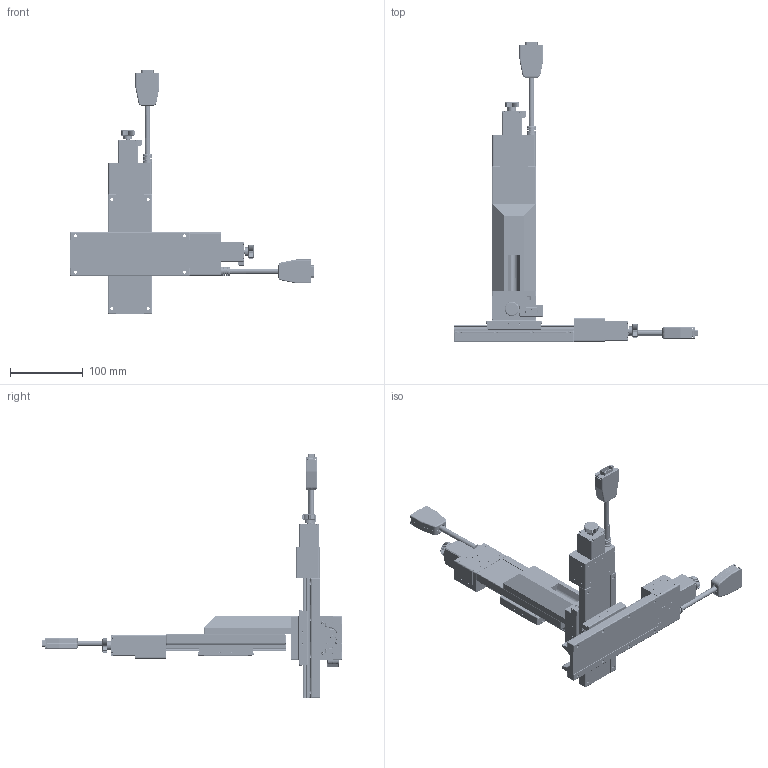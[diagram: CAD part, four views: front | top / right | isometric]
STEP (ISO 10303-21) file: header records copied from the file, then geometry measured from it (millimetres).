
FILE_DESCRIPTION (( 'STEP AP203' ), '1' );
FILE_NAME ('CXYZN6075-S2?N.STEP', '2023-10-02T07:02:46', ( '' ), ( '' ), 'SwSTEP 2.0', 'SolidWorks 2019', '' );
FILE_SCHEMA (( 'CONFIG_CONTROL_DESIGN' ));
Products named in the file (12): CZLN6075-S2_N.STEP.STEP; CXN6075-S2_N.STEP.STEP; CXZN6075-S2?N.STEP; Group1^CXN6075-S2_N(2023_s__)_defeature_GMT.STEP_GMT; CXN6075-S2?N.STEP; Group2^CZLN6075-S2_N_GMT.STEP_GMT.STEP_GMT; Group2^CXN6075-S2_N(2023_s__)_defeature_GMT.STEP_GMT.STEP_GMT; CXN60-2_GMT.STEP_GMT.STEP_GMT; Group1^CXN6075-S2_N(2023_s__)_defeature_GMT.STEP_GMT.STEP_GMT; CXYZN6075-S2?N; Group2^CXN6075-S2_N(2023_s__)_defeature_GMT.STEP_GMT; Group1^CZLN6075-S2_N_GMT.STEP_GMT.STEP_GMT
Assembly tree (11 placements, depth 4):
  CXYZN6075-S2?N
    CXZN6075-S2?N.STEP
      CXN6075-S2_N.STEP.STEP
        Group1^CXN6075-S2_N(2023_s__)_defeature_GMT.STEP_GMT.STEP_GMT
        Group2^CXN6075-S2_N(2023_s__)_defeature_GMT.STEP_GMT.STEP_GMT
      CZLN6075-S2_N.STEP.STEP
        Group1^CZLN6075-S2_N_GMT.STEP_GMT.STEP_GMT
        Group2^CZLN6075-S2_N_GMT.STEP_GMT.STEP_GMT
        CXN60-2_GMT.STEP_GMT.STEP_GMT
    CXN6075-S2?N.STEP
      Group1^CXN6075-S2_N(2023_s__)_defeature_GMT.STEP_GMT
      Group2^CXN6075-S2_N(2023_s__)_defeature_GMT.STEP_GMT
Bounding box: 335.6 x 413.1 x 335.6 mm (x, y, z)
Volume: 117713.7 mm3; surface area: 345879.4 mm2
Topology: 30 solids, 86 shells, 12613 faces, 33330 edges, 20836 vertices
Faces by surface type: plane 5041, cylinder 3719, cone 1396, torus 1246, bspline 809, sphere 402
Entity records: 474328 total; most frequent: CARTESIAN_POINT 201109, ORIENTED_EDGE 65469, DIRECTION 43768, EDGE_CURVE 32892, VERTEX_POINT 20814, B_SPLINE_CURVE_WITH_KNOTS 19484, AXIS2_PLACEMENT_3D 18861, EDGE_LOOP 13307
